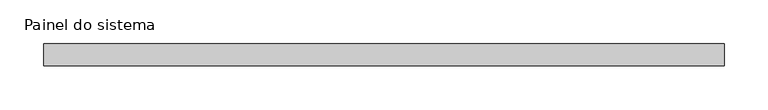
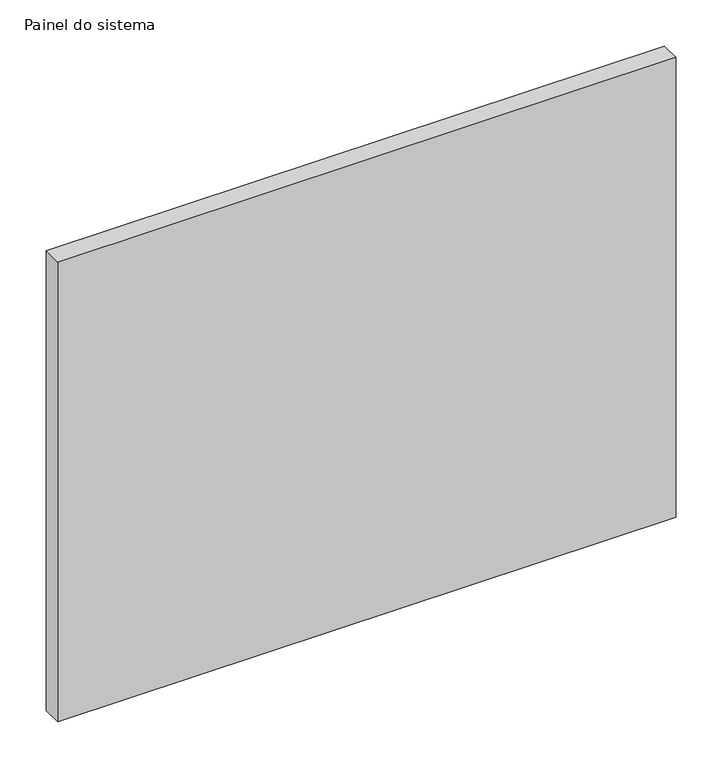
"""IFC4 building model written with IfcOpenShell, lengths in millimetres: plate geometry, Painel do sistema : Envidraçado."""

import ifcopenshell
import ifcopenshell.guid

model = None  # the IFC model being written
_history = None  # IfcOwnerHistory: only IFC2X3 demands one
_inside = {}  # id of a spatial element -> (the spatial element, [elements in it])
_under = {}  # id of a project, library or spatial element -> (it, [spatial elements below it])
_declared = {}  # id of a project -> (the project, [libraries it declares])
_typed = {}  # id of a type object -> (the type object, [elements of that type])
_made_of = {}  # id of a material, layer set ... -> (it, [elements and type objects made of it])


def new_model(schema):
    """Start an empty IFC model of exactly this schema.

    Asked for "IFC4X3", IfcOpenShell would pick the latest addendum, in which some entities
    have other attributes; the version numbers below select the first issue.
    IFC2X3 requires an IfcOwnerHistory on every rooted entity: one is made here for all.
    """
    global model, _history
    if schema == "IFC4X3":
        model = ifcopenshell.file(schema_version=(4, 3, 0, 0))
    else:
        model = ifcopenshell.file(schema=schema)
    _inside.clear()
    _under.clear()
    _declared.clear()
    _typed.clear()
    _made_of.clear()
    _history = None
    if model.schema == "IFC2X3":
        org = make("IfcOrganization", Name="unknown")
        user = make(
            "IfcPersonAndOrganization",
            ThePerson=make("IfcPerson", FamilyName="unknown"),
            TheOrganization=org,
        )
        app = make(
            "IfcApplication",
            ApplicationDeveloper=org,
            Version="unknown",
            ApplicationFullName="unknown",
            ApplicationIdentifier="unknown",
        )
        _history = make(
            "IfcOwnerHistory",
            OwningUser=user,
            OwningApplication=app,
            ChangeAction="ADDED",
            CreationDate=0,
        )
    return model


def make(cls, **values):
    """One entity of the class cls with the attributes given. An attribute that is None is left unset."""
    return model.create_entity(
        cls, **{name: value for name, value in values.items() if value is not None}
    )


def rooted(cls, **values):
    """An entity with a GlobalId (a new one), such as an element, a storey or a relation."""
    return make(cls, GlobalId=ifcopenshell.guid.new(), OwnerHistory=_history, **values)


def si_unit(unit_type, name, prefix=None):
    """IfcSIUnit, for example si_unit("LENGTHUNIT", "METRE", prefix="MILLI")."""
    return make("IfcSIUnit", UnitType=unit_type, Prefix=prefix, Name=name)


def assignment(units):
    """IfcUnitAssignment: the units of a project."""
    return None if units is None else make("IfcUnitAssignment", Units=units)


def point(xyz):
    """IfcCartesianPoint."""
    return None if xyz is None else make("IfcCartesianPoint", Coordinates=xyz)


def direction(xyz):
    """IfcDirection."""
    return None if xyz is None else make("IfcDirection", DirectionRatios=xyz)


def frame(location, z_axis=None, x_axis=None):
    """IfcAxis2Placement3D, a coordinate frame: its origin and axes. An axis left out is left unset."""
    return make(
        "IfcAxis2Placement3D",
        Location=point(location),
        Axis=direction(z_axis),
        RefDirection=direction(x_axis),
    )


def origin():
    """The frame at (0, 0, 0) with its axes left unset."""
    return frame((0.0, 0.0, 0.0))


def origin_with_axes():
    """The frame at (0, 0, 0) with the z axis (0, 0, 1) and the x axis (1, 0, 0) written out."""
    return frame((0.0, 0.0, 0.0), z_axis=(0.0, 0.0, 1.0), x_axis=(1.0, 0.0, 0.0))


def place(relative_to, where):
    """IfcLocalPlacement: puts the frame where relative to a parent placement (None: the world)."""
    return make(
        "IfcLocalPlacement", PlacementRelTo=relative_to, RelativePlacement=where
    )


def context(
    kind, dimensions, precision=None, world=None, true_north=None, identifier=None
):
    """IfcGeometricRepresentationContext, for example the 3D "Model" context."""
    return make(
        "IfcGeometricRepresentationContext",
        ContextIdentifier=identifier,
        ContextType=kind,
        CoordinateSpaceDimension=dimensions,
        Precision=precision,
        WorldCoordinateSystem=world,
        TrueNorth=true_north,
    )


def project(units=None, contexts=None):
    """IfcProject with its units and contexts."""
    return rooted(
        "IfcProject",
        Name="project",
        RepresentationContexts=contexts,
        UnitsInContext=assignment(units),
    )


def spatial(cls, under=None, at=None, **own):
    """A site, building, storey or space (cls), placed at a placement, below another one or the project."""
    s = rooted(cls, ObjectPlacement=at, **own)
    if under is not None:
        _under.setdefault(under.id(), (under, []))[1].append(s)
    return s


def polyline(points):
    """IfcPolyline through the points."""
    return make("IfcPolyline", Points=[point(p) for p in points])


def outline(outer, holes=None, kind="AREA"):
    """IfcArbitraryClosedProfileDef: a profile drawn as a closed curve; with holes, ...WithVoids."""
    if holes is None:
        return make("IfcArbitraryClosedProfileDef", ProfileType=kind, OuterCurve=outer)
    return make(
        "IfcArbitraryProfileDefWithVoids",
        ProfileType=kind,
        OuterCurve=outer,
        InnerCurves=holes,
    )


def extrude(swept, where, along, depth):
    """IfcExtrudedAreaSolid: the profile swept, set in the frame where, extruded along a direction by depth."""
    return make(
        "IfcExtrudedAreaSolid",
        SweptArea=swept,
        Position=where,
        ExtrudedDirection=direction(along),
        Depth=depth,
    )


def shape(context_of_items, identifier, shape_type, items):
    """IfcShapeRepresentation: the items that make up one representation, for example the "Body"."""
    return make(
        "IfcShapeRepresentation",
        ContextOfItems=context_of_items,
        RepresentationIdentifier=identifier,
        RepresentationType=shape_type,
        Items=items,
    )


def source(mapping_origin, context_of_items, identifier, shape_type, items):
    """IfcRepresentationMap: a shape defined once, which mapped items show again and again."""
    return make(
        "IfcRepresentationMap",
        MappingOrigin=mapping_origin,
        MappedRepresentation=shape(context_of_items, identifier, shape_type, items),
    )


def transform(
    local_origin,
    x_axis=None,
    y_axis=None,
    z_axis=None,
    scale=None,
    scale2=None,
    scale3=None,
    uniform=True,
):
    """IfcCartesianTransformationOperator3D, or its non-uniform kind. x_axis, y_axis, z_axis: its Axis1, 2, 3."""
    if uniform:
        return make(
            "IfcCartesianTransformationOperator3D",
            Axis1=direction(x_axis),
            Axis2=direction(y_axis),
            LocalOrigin=point(local_origin),
            Scale=scale,
            Axis3=direction(z_axis),
        )
    return make(
        "IfcCartesianTransformationOperator3DnonUniform",
        Axis1=direction(x_axis),
        Axis2=direction(y_axis),
        LocalOrigin=point(local_origin),
        Scale=scale,
        Axis3=direction(z_axis),
        Scale2=scale2,
        Scale3=scale3,
    )


def mapped(mapping_source, mapping_target):
    """IfcMappedItem: shows the shape of a source again, moved by a transform."""
    return make(
        "IfcMappedItem", MappingSource=mapping_source, MappingTarget=mapping_target
    )


def made_of(thing, what):
    """Note that an element or type object is made of a material, layer set ...; save() writes the relation."""
    if what is not None:
        _made_of.setdefault(what.id(), (what, []))[1].append(thing)
    return thing


def element(
    cls,
    number,
    at=None,
    inside=None,
    cuts=None,
    type_object=None,
    material=None,
    context=None,
    identifier="Body",
    shape_type=None,
    held_by="IfcProductDefinitionShape",
    body=None,
    shapes=None,
    **own,
):
    """One element of the class cls, such as IfcWall. Its Tag is "e" and its number.

    at: its placement. inside: the storey or other place that contains it. cuts: it is an
    opening in that element (IfcRelVoidsElement). A single representation is given by context,
    identifier, shape_type and body (its items); several are given by shapes. held_by: the class
    of the entity that holds the representations. save() writes the other relations.
    """
    e = rooted(cls, Tag="e%d" % number, ObjectPlacement=at, **own)
    if body is not None:
        shapes = [shape(context, identifier, shape_type, body)]
    if shapes is not None:
        e.Representation = make(held_by, Representations=shapes)
    if inside is not None:
        _inside.setdefault(inside.id(), (inside, []))[1].append(e)
    if cuts is not None:
        rooted(
            "IfcRelVoidsElement", RelatingBuildingElement=cuts, RelatedOpeningElement=e
        )
    if type_object is not None:
        _typed.setdefault(type_object.id(), (type_object, []))[1].append(e)
    return made_of(e, material)


def aggregate(whole, parts):
    """IfcRelAggregates: a whole, such as a stair, and the parts it consists of."""
    return rooted("IfcRelAggregates", RelatingObject=whole, RelatedObjects=parts)


def save(model, path):
    """Write the relations noted so far, then the file.

    IfcRelAggregates (storeys below a building ...), IfcRelContainedInSpatialStructure (elements
    in a storey), IfcRelDefinesByType, IfcRelAssociatesMaterial and IfcRelDeclares: one each for
    every whole, place, type object, material and project.
    """
    for whole, parts in _under.values():
        aggregate(whole, parts)
    for where, things in _inside.values():
        rooted(
            "IfcRelContainedInSpatialStructure",
            RelatedElements=things,
            RelatingStructure=where,
        )
    for kind, things in _typed.values():
        rooted("IfcRelDefinesByType", RelatedObjects=things, RelatingType=kind)
    for what, things in _made_of.values():
        rooted("IfcRelAssociatesMaterial", RelatedObjects=things, RelatingMaterial=what)
    for by, libraries in _declared.values():
        rooted("IfcRelDeclares", RelatingContext=by, RelatedDefinitions=libraries)
    model.write(path)


def painel_do_sistema_1c0cb056(model_context):
    return source(origin(), model_context, "Body", "SweptSolid", [
        extrude(outline(polyline([(387.7521688, 24.5), (-387.7521688, 24.5), (-387.7521688, 49.5), (387.7521688, 49.5), (387.7521688, 24.5)])), origin_with_axes(), (0.0, 0.0, 1.0), 610.0),
    ])


if __name__ == "__main__":
    model = new_model("IFC4")
    model_context = context("Model", 3, world=origin())
    ifc_project = project(units=[si_unit("LENGTHUNIT", "METRE", prefix="MILLI")], contexts=[model_context])
    site = spatial("IfcSite", under=ifc_project)
    building = spatial("IfcBuilding", under=site)
    placement = place(None, origin())
    painel_do_sistema_shape = painel_do_sistema_1c0cb056(model_context)
    element("IfcPlate", 1, ObjectType="Painel do sistema : Envidraçado", at=placement, inside=building, context=model_context, shape_type="MappedRepresentation", body=[
        mapped(painel_do_sistema_shape, transform((0.0, 0.0, 0.0), x_axis=(1.0, 0.0, 0.0), y_axis=(0.0, 1.0, 0.0), z_axis=(0.0, 0.0, 1.0))),
    ])
    save(model, "model.ifc")
